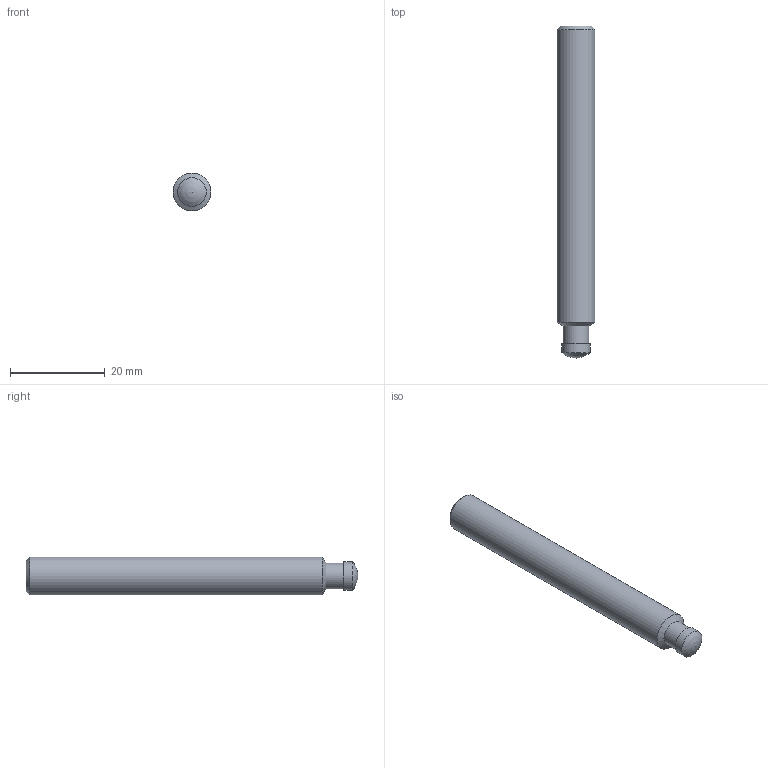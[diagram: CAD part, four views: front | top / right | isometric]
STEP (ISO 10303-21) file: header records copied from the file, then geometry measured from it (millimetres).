
FILE_DESCRIPTION( ( 'STEP AP203' ), '1' );
FILE_NAME( 'C:/Temp/Ganter_Step_05_03_2020/data/3_2/din6332/din6332/Grub screw DIN 6332-M8-70-SK.stp', '2020-03-13T05:16:20', ( 'License CC BY-ND 4.0' ), ( 'CADENAS' ), ' ', 'PARTsolutions', ' ' );
FILE_SCHEMA( ( 'CONFIG_CONTROL_DESIGN' ) );
Length unit declared in the file: millimetre
Products named in the file (1): _Grub screw DIN 6332-M8-70-SK
Bounding box: 8 x 70 x 8 mm (x, y, z)
Volume: 3282.1 mm3; surface area: 1811.6 mm2
Topology: 1 solids, 1 shells, 15 faces, 33 edges, 21 vertices
Faces by surface type: plane 9, cylinder 3, cone 2, sphere 1
Full cylindrical faces by diameter (mm): 5.4 x1, 6 x1, 8 x1
Entity records: 410 total; most frequent: DIRECTION 64, CARTESIAN_POINT 61, ORIENTED_EDGE 50, EDGE_CURVE 25, AXIS2_PLACEMENT_3D 23, EDGE_LOOP 22, VERTEX_POINT 20, FACE_OUTER_BOUND 18
